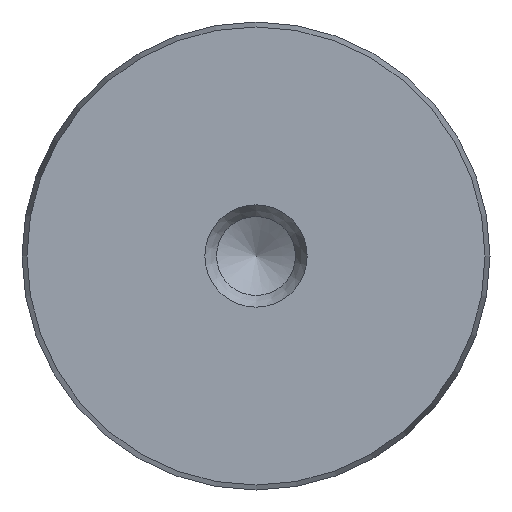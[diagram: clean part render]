
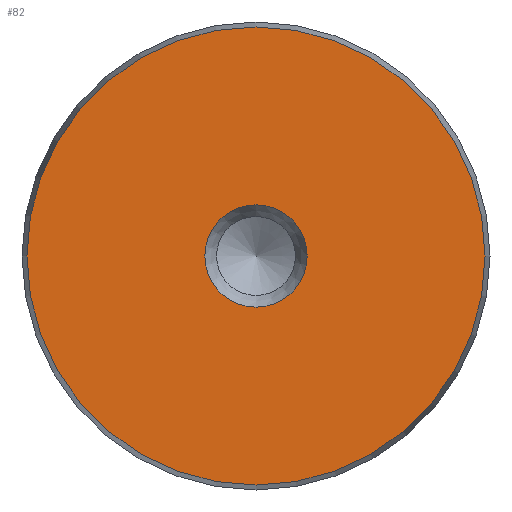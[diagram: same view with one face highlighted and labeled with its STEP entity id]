
A CAD part, front view. The second image highlights one B-rep face of the part: STEP entity #82.
In plain terms, the highlighted planar face has unit normal (0, -1, 0).
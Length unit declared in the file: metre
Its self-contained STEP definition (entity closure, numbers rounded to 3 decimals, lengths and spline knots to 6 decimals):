
#82 = ADVANCED_FACE( '', ( #108, #109 ), #110, .T. );
#108 = FACE_BOUND( '', #150, .T. );
#109 = FACE_OUTER_BOUND( '', #151, .T. );
#110 = PLANE( '', #152 );
#150 = EDGE_LOOP( '', ( #202 ) );
#151 = EDGE_LOOP( '', ( #203 ) );
#152 = AXIS2_PLACEMENT_3D( '', #204, #205, #206 );
#202 = ORIENTED_EDGE( '', *, *, #252, .T. );
#203 = ORIENTED_EDGE( '', *, *, #254, .T. );
#204 = CARTESIAN_POINT( '', ( 0., -0.1575, 0. ) );
#205 = DIRECTION( '', ( 0., -1., 0. ) );
#206 = DIRECTION( '', ( 0., 0., -1. ) );
#252 = EDGE_CURVE( '', #270, #270, #271, .F. );
#254 = EDGE_CURVE( '', #274, #274, #275, .T. );
#270 = VERTEX_POINT( '', #296 );
#271 = CIRCLE( '', #297, 0.004375 );
#274 = VERTEX_POINT( '', #300 );
#275 = CIRCLE( '', #301, 0.019578 );
#296 = CARTESIAN_POINT( '', ( 0., -0.1575, -0.004375 ) );
#297 = AXIS2_PLACEMENT_3D( '', #326, #327, #328 );
#300 = CARTESIAN_POINT( '', ( 0., -0.1575, -0.019578 ) );
#301 = AXIS2_PLACEMENT_3D( '', #332, #333, #334 );
#326 = CARTESIAN_POINT( '', ( 0., -0.1575, 0. ) );
#327 = DIRECTION( '', ( 0., -1., 0. ) );
#328 = DIRECTION( '', ( 0., 0., -1. ) );
#332 = CARTESIAN_POINT( '', ( 0., -0.1575, 0. ) );
#333 = DIRECTION( '', ( 0., -1., 0. ) );
#334 = DIRECTION( '', ( 0., 0., -1. ) );
